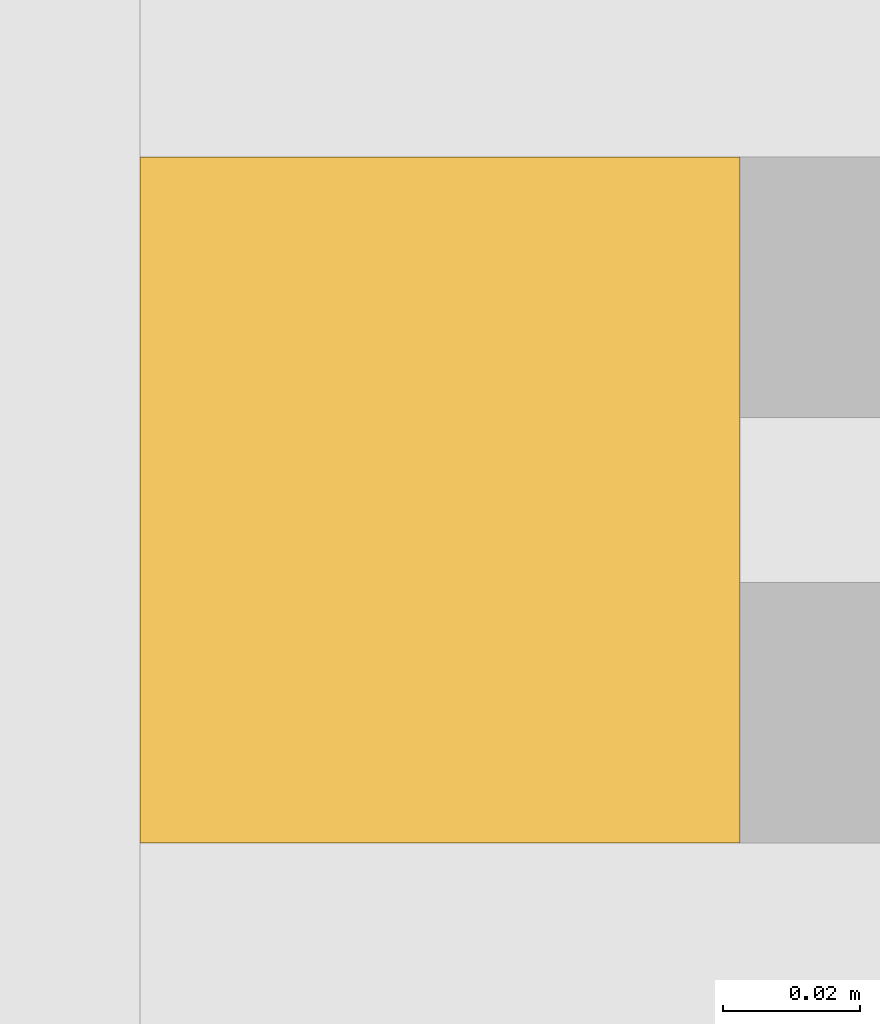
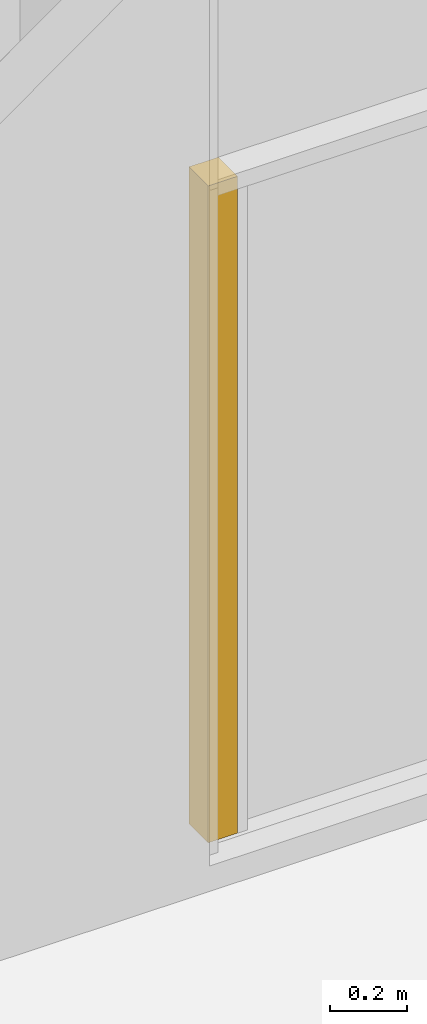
# One storey, part 72 of 100: 1 curtain wall, 1 opening, 1 element without a shape of its own.
"""IFC2X3 building model written with IfcOpenShell, lengths in millimetres."""

from ifc_helpers import new_model, entity, si_unit, converted_unit, derived_unit, direction, frame, frame_2d, origin, origin_2d_with_axis, place, context, subcontext, project, spatial, rectangle, extrude, material, layer, layer_set, layer_usage, type_object, element, aggregate, save


model = new_model("IFC2X3")

# Units and contexts
model_context = context("Model", 3, precision=0.01, world=origin(), true_north=direction((6.123031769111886e-17, 1.0)))
body_context = subcontext(model_context, "Body", "Model", "MODEL_VIEW")
ifc_project = project(units=[si_unit("LENGTHUNIT", "METRE", prefix="MILLI"), si_unit("AREAUNIT", "SQUARE_METRE"), si_unit("VOLUMEUNIT", "CUBIC_METRE"), converted_unit("PLANEANGLEUNIT", "DEGREE", entity("IfcRatioMeasure", 0.017453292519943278), si_unit("PLANEANGLEUNIT", "RADIAN"), dimensions=[0, 0, 0, 0, 0, 0, 0]), si_unit("MASSUNIT", "GRAM", prefix="KILO"), derived_unit("MASSDENSITYUNIT", [(si_unit("MASSUNIT", "GRAM", prefix="KILO"), 1), (si_unit("LENGTHUNIT", "METRE"), -3)]), derived_unit("MOMENTOFINERTIAUNIT", [(si_unit("LENGTHUNIT", "METRE"), 4)]), si_unit("TIMEUNIT", "SECOND"), si_unit("FREQUENCYUNIT", "HERTZ"), si_unit("THERMODYNAMICTEMPERATUREUNIT", "DEGREE_CELSIUS"), derived_unit("THERMALTRANSMITTANCEUNIT", [(si_unit("MASSUNIT", "GRAM", prefix="KILO"), 1), (si_unit("THERMODYNAMICTEMPERATUREUNIT", "KELVIN"), -1), (si_unit("TIMEUNIT", "SECOND"), -3)]), derived_unit("VOLUMETRICFLOWRATEUNIT", [(si_unit("LENGTHUNIT", "METRE"), 3), (si_unit("TIMEUNIT", "SECOND"), -1)]), derived_unit("MASSFLOWRATEUNIT", [(si_unit("MASSUNIT", "GRAM", prefix="KILO"), 1), (si_unit("TIMEUNIT", "SECOND"), -1)]), derived_unit("ROTATIONALFREQUENCYUNIT", [(si_unit("TIMEUNIT", "SECOND"), -1)]), si_unit("ELECTRICCURRENTUNIT", "AMPERE"), si_unit("ELECTRICVOLTAGEUNIT", "VOLT"), si_unit("POWERUNIT", "WATT"), si_unit("FORCEUNIT", "NEWTON", prefix="KILO"), si_unit("ILLUMINANCEUNIT", "LUX"), si_unit("LUMINOUSFLUXUNIT", "LUMEN"), si_unit("LUMINOUSINTENSITYUNIT", "CANDELA"), derived_unit("USERDEFINED", [(si_unit("MASSUNIT", "GRAM", prefix="KILO"), -1), (si_unit("LENGTHUNIT", "METRE"), -2), (si_unit("TIMEUNIT", "SECOND"), 3), (si_unit("LUMINOUSFLUXUNIT", "LUMEN"), 1)]), derived_unit("SOUNDPOWERUNIT", [(si_unit("MASSUNIT", "GRAM", prefix="KILO"), 1), (si_unit("LENGTHUNIT", "METRE"), 2), (si_unit("TIMEUNIT", "SECOND"), -3)]), derived_unit("SOUNDPRESSUREUNIT", [(si_unit("MASSUNIT", "GRAM", prefix="KILO"), 1), (si_unit("LENGTHUNIT", "METRE"), -1), (si_unit("TIMEUNIT", "SECOND"), -2)]), derived_unit("LINEARVELOCITYUNIT", [(si_unit("LENGTHUNIT", "METRE"), 1), (si_unit("TIMEUNIT", "SECOND"), -1)]), si_unit("PRESSUREUNIT", "PASCAL"), derived_unit("USERDEFINED", [(si_unit("LENGTHUNIT", "METRE"), -2), (si_unit("MASSUNIT", "GRAM", prefix="KILO"), 1), (si_unit("TIMEUNIT", "SECOND"), -2)]), derived_unit("LINEARFORCEUNIT", [(si_unit("MASSUNIT", "GRAM", prefix="KILO"), 1), (si_unit("LENGTHUNIT", "METRE"), 1), (si_unit("TIMEUNIT", "SECOND"), -2), (si_unit("LENGTHUNIT", "METRE"), -1)]), derived_unit("PLANARFORCEUNIT", [(si_unit("MASSUNIT", "GRAM", prefix="KILO"), 1), (si_unit("LENGTHUNIT", "METRE"), 1), (si_unit("TIMEUNIT", "SECOND"), -2), (si_unit("LENGTHUNIT", "METRE"), -2)])], contexts=[model_context])

# Site, building, storey
site_placement = place(None, frame((-14167.972527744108, -657.2125860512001, 0.0)))
site = spatial("IfcSite", under=ifc_project, at=site_placement, Name="Default", CompositionType="ELEMENT")
building_placement = place(site_placement, origin())
building = spatial("IfcBuilding", under=site, at=building_placement, Name="Sample Building", CompositionType="ELEMENT")
storey_placement = place(building_placement, origin())
storey = spatial("IfcBuildingStorey", under=building, at=storey_placement, Name="지상 1층", CompositionType="ELEMENT", Elevation=0.0)

# Curtain walls, opening
curtain_wall_type_1 = type_object("IfcCurtainWallType", Name="커튼월:CW112-스테인리스 스틸 커튼월", PredefinedType="NOTDEFINED")
curtain_wall_1_placement = place(storey_placement, origin())
curtain_wall_1 = element("IfcCurtainWall", 1, at=curtain_wall_1_placement, inside=storey, type_object=curtain_wall_type_1, Name="커튼월:CW112-스테인리스 스틸 커튼월", ObjectType="커튼월:CW112-스테인리스 스틸 커튼월")
ifc_material = material(Name="KBIMS-콘크리트")
ifc_layer = layer(ifc_material, 100.0)
ifc_layer_set = layer_set([ifc_layer], Name="커튼월:CW112-스테인리스 스틸 커튼월")
ifc_layer_usage = layer_usage(ifc_layer_set, "AXIS2", "NEGATIVE", 50.0)
curtain_wall_type_2 = type_object("IfcCurtainWallType", Name="기본 벽:WA111-철근콘크리트구조 벽 100mm", PredefinedType="NOTDEFINED", material=ifc_layer_set)
curtain_wall_2_placement = place(storey_placement, frame((30917.97249113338, 619.7122951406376, 80.0)))
curtain_wall_2 = element("IfcCurtainWall", 2, at=curtain_wall_2_placement, type_object=curtain_wall_type_2, material=ifc_layer_usage, Name="기본 벽:WA111-철근콘크리트구조 벽 100mm", ObjectType="기본 벽:WA111-철근콘크리트구조 벽 100mm", context=body_context, shape_type="SweptSolid", body=[
    extrude(rectangle(XDim=87.49999999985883, YDim=100.0, at=origin_2d_with_axis()), frame((43.74999999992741, 0.0, 0.0)), (0.0, 0.0, 1.0), 2075.0),
])
opening_placement = place(curtain_wall_2_placement, frame((1037.4999999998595, 50.0, -25.0)))
element("IfcOpeningElement", 3, at=opening_placement, cuts=curtain_wall_2, Name="DR111-외여닫이문(철재, 일반, 양개):DR111-외여닫이문(유리, 일반, 양개) 950x2100mm:1", ObjectType="Opening", context=body_context, shape_type="SweptSolid", body=[
    extrude(rectangle(XDim=2099.9999999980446, YDim=949.9999999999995, at=frame_2d((1049.9999999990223, 474.9999999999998), x_axis=(1.0, 0.0))), frame((0.0, 0.0, 0.0), z_axis=(0.0, -1.0, 0.0), x_axis=(0.0, 0.0, 1.0)), (0.0, 0.0, 1.0), 100.0),
])
aggregate(curtain_wall_1, [curtain_wall_2])

save(model, "model.ifc")
